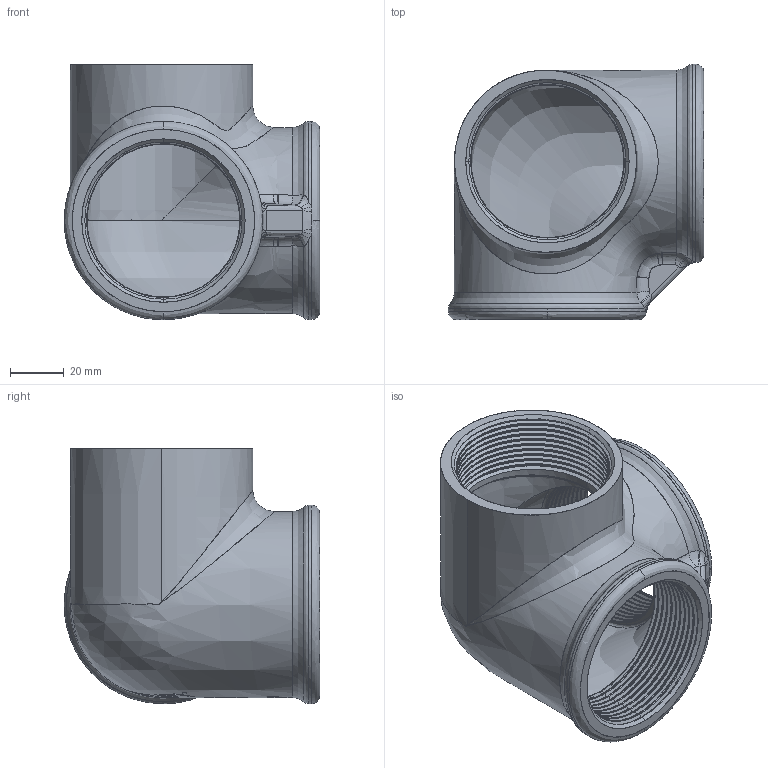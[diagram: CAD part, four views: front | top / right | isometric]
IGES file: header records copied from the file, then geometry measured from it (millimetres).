
Start section: SolidWorks IGES file using analytic representation for surfaces
Global section: file name: C:\Users\Joel Rosa\Desktop\Tubulação\12-15-XOK\12-05-010.IGS; native system: SolidWorks 2011; preprocessor: SolidWorks 2011; author: Joel Rosa; date: 130514.185008; units: millimetre
Bounding box: 94.8 x 94.8 x 94.8 mm (x, y, z)
Surface area: 64647 mm2 (no closed solid volume)
Topology: 0 solids, 0 shells, 488 faces, 4947 edges, 4937 vertices
Faces by surface type: bspline 346, revolution 142
